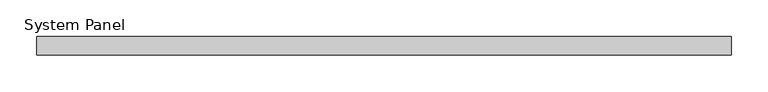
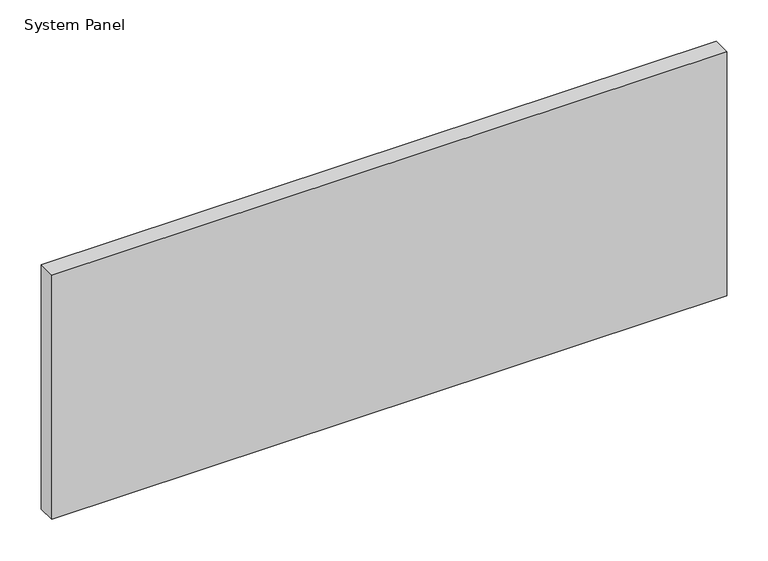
"""IFC4 building model written with IfcOpenShell, lengths in millimetres: plate geometry, System Panel : Glazed - ACMP (AL-1)."""

from ifc_helpers import new_model, si_unit, origin, origin_with_axes, place, context, project, spatial, polyline, outline, extrude, source, transform, mapped, element, save


def system_panel_1846a41c(model_context):
    return source(origin(), model_context, "Body", "SweptSolid", [
        extrude(outline(polyline([(473.075, 0.0), (-473.075, 0.0), (-473.075, 25.4), (473.075, 25.4), (473.075, 0.0)])), origin_with_axes(), (0.0, 0.0, 1.0), 361.95),
    ])


if __name__ == "__main__":
    model = new_model("IFC4")
    model_context = context("Model", 3, world=origin())
    ifc_project = project(units=[si_unit("LENGTHUNIT", "METRE", prefix="MILLI")], contexts=[model_context])
    site = spatial("IfcSite", under=ifc_project)
    building = spatial("IfcBuilding", under=site)
    placement = place(None, origin())
    system_panel_shape = system_panel_1846a41c(model_context)
    element("IfcPlate", 1, ObjectType="System Panel : Glazed - ACMP (AL-1)", at=placement, inside=building, context=model_context, shape_type="MappedRepresentation", body=[
        mapped(system_panel_shape, transform((0.0, 0.0, 0.0), x_axis=(1.0, 0.0, 0.0), y_axis=(0.0, 1.0, 0.0), z_axis=(0.0, 0.0, 1.0))),
    ])
    save(model, "model.ifc")
